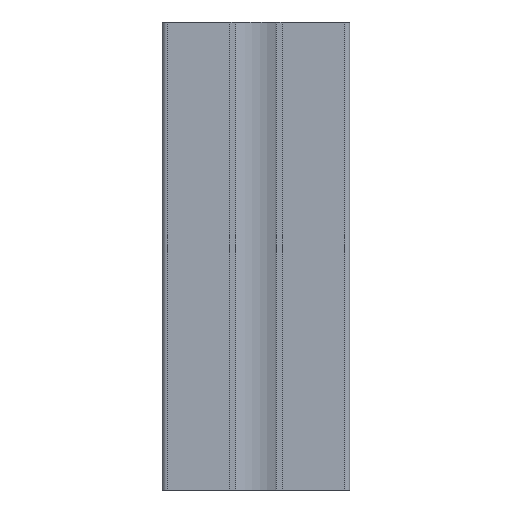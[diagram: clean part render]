
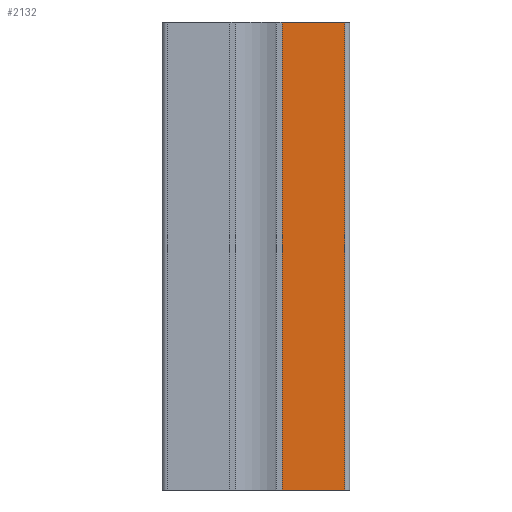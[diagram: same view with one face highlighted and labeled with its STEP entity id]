
A CAD part, front view. The second image highlights one B-rep face of the part: STEP entity #2132.
In plain terms, the highlighted planar face has unit normal (0, -1, 0).
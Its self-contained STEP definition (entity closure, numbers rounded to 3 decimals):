
#72=PLANE('',#2296);
#174=FACE_OUTER_BOUND('',#280,.T.);
#280=EDGE_LOOP('',(#1701,#1702,#1703,#1704));
#490=LINE('',#3378,#738);
#491=LINE('',#3381,#739);
#492=LINE('',#3383,#740);
#493=LINE('',#3384,#741);
#738=VECTOR('',#2768,100.);
#739=VECTOR('',#2771,13.4);
#740=VECTOR('',#2772,13.4);
#741=VECTOR('',#2773,100.);
#1031=VERTEX_POINT('',#3374);
#1032=VERTEX_POINT('',#3376);
#1033=VERTEX_POINT('',#3380);
#1034=VERTEX_POINT('',#3382);
#1314=EDGE_CURVE('',#1031,#1032,#490,.T.);
#1315=EDGE_CURVE('',#1033,#1031,#491,.T.);
#1316=EDGE_CURVE('',#1034,#1032,#492,.T.);
#1317=EDGE_CURVE('',#1033,#1034,#493,.T.);
#1701=ORIENTED_EDGE('',*,*,#1315,.T.);
#1702=ORIENTED_EDGE('',*,*,#1314,.T.);
#1703=ORIENTED_EDGE('',*,*,#1316,.F.);
#1704=ORIENTED_EDGE('',*,*,#1317,.F.);
#2132=ADVANCED_FACE('',(#174),#72,.T.);
#2296=AXIS2_PLACEMENT_3D('',#3379,#2769,#2770);
#2768=DIRECTION('',(0.,0.,1.));
#2769=DIRECTION('center_axis',(0.,-1.,0.));
#2770=DIRECTION('ref_axis',(1.,0.,0.));
#2771=DIRECTION('',(1.,0.,0.));
#2772=DIRECTION('',(1.,0.,0.));
#2773=DIRECTION('',(0.,0.,1.));
#3374=CARTESIAN_POINT('',(39.539,0.559,0.));
#3376=CARTESIAN_POINT('',(39.539,0.559,100.));
#3378=CARTESIAN_POINT('',(39.539,0.559,0.));
#3379=CARTESIAN_POINT('Origin',(26.139,0.559,0.));
#3380=CARTESIAN_POINT('',(26.139,0.559,0.));
#3381=CARTESIAN_POINT('',(26.139,0.559,0.));
#3382=CARTESIAN_POINT('',(26.139,0.559,100.));
#3383=CARTESIAN_POINT('',(26.139,0.559,100.));
#3384=CARTESIAN_POINT('',(26.139,0.559,0.));
